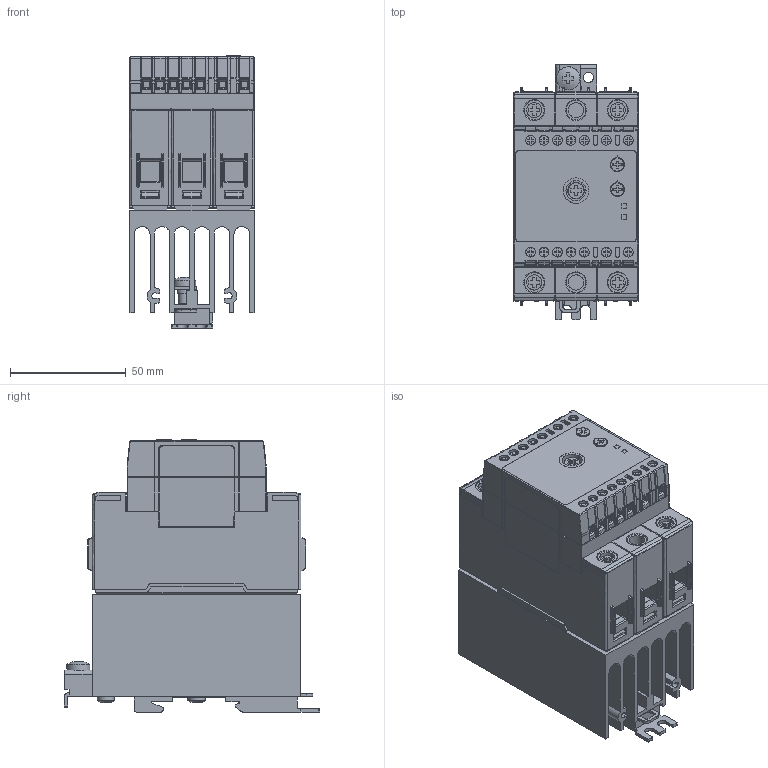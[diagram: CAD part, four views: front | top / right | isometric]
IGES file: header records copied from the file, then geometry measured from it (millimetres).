
Global section: file name: CGI1365-00-3D; native system: Autodesk RealDWG; preprocessor: Autodesk Translation Framework DWG producer (atf_dwg_producer); author: Ray Ellul; organization: unknown; date: 20170807.144924; units: millimetre
Bounding box: 53.8 x 110 x 117.35 mm (x, y, z)
Volume: 361346.1 mm3; surface area: 106798.2 mm2
Topology: 1 solids, 1 shells, 2617 faces, 7189 edges, 4654 vertices
Faces by surface type: bspline 2617
